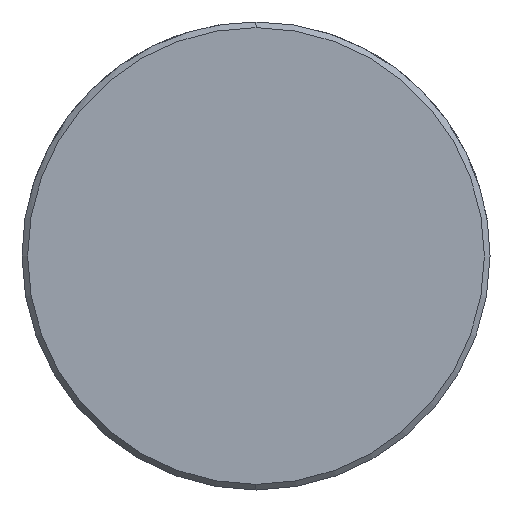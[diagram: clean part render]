
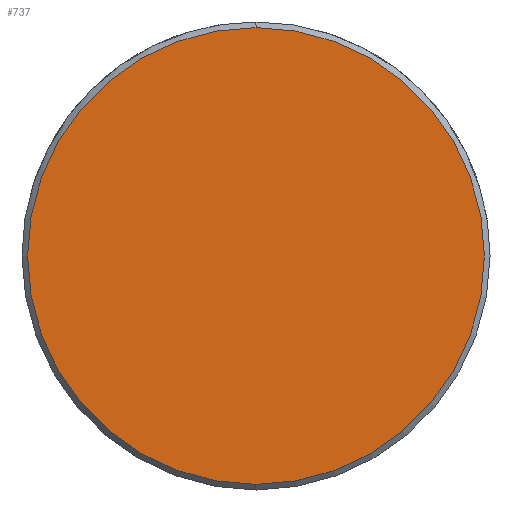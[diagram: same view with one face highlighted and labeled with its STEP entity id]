
A CAD part, left-side view. The second image highlights one B-rep face of the part: STEP entity #737.
In plain terms, the highlighted planar face has unit normal (-1, 0, 0).
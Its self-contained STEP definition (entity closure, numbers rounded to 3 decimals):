
#669=CARTESIAN_POINT('Vertex',(0.,0.,-12.2)) ;
#672=CARTESIAN_POINT('Axis2P3D Location',(0.,0.,0.)) ;
#676=CARTESIAN_POINT('Vertex',(0.,12.2,0.)) ;
#679=CARTESIAN_POINT('Axis2P3D Location',(0.,0.,0.)) ;
#683=CARTESIAN_POINT('Vertex',(0.,0.,12.2)) ;
#705=CARTESIAN_POINT('Axis2P3D Location',(0.,0.,0.)) ;
#709=CARTESIAN_POINT('Vertex',(0.,-12.2,0.)) ;
#712=CARTESIAN_POINT('Axis2P3D Location',(0.,0.,0.)) ;
#726=CARTESIAN_POINT('Axis2P3D Location',(0.,0.,0.)) ;
#673=DIRECTION('Axis2P3D Direction',(1.,0.,-0.)) ;
#680=DIRECTION('Axis2P3D Direction',(1.,0.,-0.)) ;
#706=DIRECTION('Axis2P3D Direction',(1.,0.,-0.)) ;
#713=DIRECTION('Axis2P3D Direction',(1.,0.,-0.)) ;
#727=DIRECTION('Axis2P3D Direction',(1.,0.,-0.)) ;
#728=DIRECTION('Axis2P3D XDirection',(-0.,0.,-1.)) ;
#674=AXIS2_PLACEMENT_3D('Circle Axis2P3D',#672,#673,$) ;
#681=AXIS2_PLACEMENT_3D('Circle Axis2P3D',#679,#680,$) ;
#707=AXIS2_PLACEMENT_3D('Circle Axis2P3D',#705,#706,$) ;
#714=AXIS2_PLACEMENT_3D('Circle Axis2P3D',#712,#713,$) ;
#729=AXIS2_PLACEMENT_3D('Plane Axis2P3D',#726,#727,#728) ;
#732=ORIENTED_EDGE('',*,*,#678,.F.) ;
#733=ORIENTED_EDGE('',*,*,#716,.F.) ;
#734=ORIENTED_EDGE('',*,*,#711,.F.) ;
#735=ORIENTED_EDGE('',*,*,#685,.F.) ;
#737=ADVANCED_FACE('549-22X180',(#736),#730,.F.) ;
#675=CIRCLE('generated circle',#674,12.2) ;
#682=CIRCLE('generated circle',#681,12.2) ;
#708=CIRCLE('generated circle',#707,12.2) ;
#715=CIRCLE('generated circle',#714,12.2) ;
#678=EDGE_CURVE('',#670,#677,#675,.T.) ;
#685=EDGE_CURVE('',#677,#684,#682,.T.) ;
#711=EDGE_CURVE('',#684,#710,#708,.T.) ;
#716=EDGE_CURVE('',#710,#670,#715,.T.) ;
#731=EDGE_LOOP('',(#732,#733,#734,#735)) ;
#736=FACE_OUTER_BOUND('',#731,.T.) ;
#730=PLANE('Plane',#729) ;
#670=VERTEX_POINT('',#669) ;
#677=VERTEX_POINT('',#676) ;
#684=VERTEX_POINT('',#683) ;
#710=VERTEX_POINT('',#709) ;
